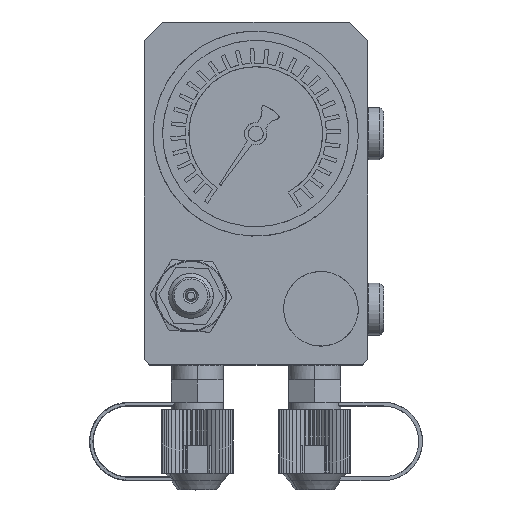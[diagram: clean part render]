
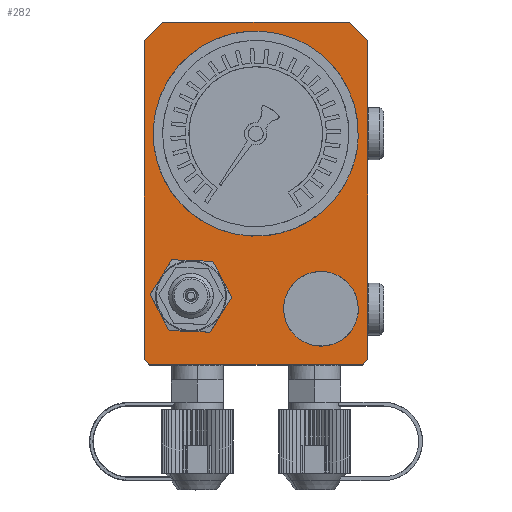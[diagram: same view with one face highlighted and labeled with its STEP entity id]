
A CAD part, top view. The second image highlights one B-rep face of the part: STEP entity #282.
In plain terms, the highlighted planar face has unit normal (0, 0, 1) as drawn and (1, 0, 0) by its records, which use the part's own axes.
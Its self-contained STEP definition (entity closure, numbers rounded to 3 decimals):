
#61=CARTESIAN_POINT('Axis2P3D Location',(4.,87.52,11.75)) ;
#66=CARTESIAN_POINT('Line Origine',(4.,25.8,53.567)) ;
#70=CARTESIAN_POINT('Vertex',(4.,27.508,10.851)) ;
#72=CARTESIAN_POINT('Vertex',(4.,24.092,96.283)) ;
#75=CARTESIAN_POINT('Line Origine',(4.,28.287,10.132)) ;
#79=CARTESIAN_POINT('Vertex',(4.,29.067,9.412)) ;
#82=CARTESIAN_POINT('Line Origine',(4.,57.544,10.551)) ;
#86=CARTESIAN_POINT('Vertex',(4.,86.021,11.69)) ;
#89=CARTESIAN_POINT('Line Origine',(4.,86.741,12.469)) ;
#93=CARTESIAN_POINT('Vertex',(4.,87.46,13.249)) ;
#96=CARTESIAN_POINT('Line Origine',(4.,85.752,55.965)) ;
#100=CARTESIAN_POINT('Vertex',(4.,84.044,98.681)) ;
#103=CARTESIAN_POINT('Line Origine',(4.,81.446,101.079)) ;
#107=CARTESIAN_POINT('Vertex',(4.,78.848,103.477)) ;
#110=CARTESIAN_POINT('Line Origine',(4.,53.868,102.478)) ;
#114=CARTESIAN_POINT('Vertex',(4.,28.888,101.479)) ;
#117=CARTESIAN_POINT('Line Origine',(4.,26.49,98.881)) ;
#132=CARTESIAN_POINT('Line Origine',(4.,47.587,23.59)) ;
#136=CARTESIAN_POINT('Vertex',(4.,44.845,18.84)) ;
#138=CARTESIAN_POINT('Vertex',(4.,50.33,28.34)) ;
#141=CARTESIAN_POINT('Line Origine',(4.,39.36,18.84)) ;
#145=CARTESIAN_POINT('Vertex',(4.,33.875,18.84)) ;
#148=CARTESIAN_POINT('Line Origine',(4.,31.133,23.59)) ;
#152=CARTESIAN_POINT('Vertex',(4.,28.39,28.34)) ;
#155=CARTESIAN_POINT('Line Origine',(4.,31.133,33.09)) ;
#159=CARTESIAN_POINT('Vertex',(4.,33.875,37.84)) ;
#162=CARTESIAN_POINT('Line Origine',(4.,39.36,37.84)) ;
#166=CARTESIAN_POINT('Vertex',(4.,44.845,37.84)) ;
#169=CARTESIAN_POINT('Line Origine',(4.,47.587,33.09)) ;
#182=CARTESIAN_POINT('Line Origine',(4.,74.705,17.744)) ;
#186=CARTESIAN_POINT('Vertex',(4.,69.801,17.548)) ;
#188=CARTESIAN_POINT('Vertex',(4.,79.608,17.94)) ;
#191=CARTESIAN_POINT('Line Origine',(4.,67.18,21.696)) ;
#195=CARTESIAN_POINT('Vertex',(4.,64.558,25.845)) ;
#198=CARTESIAN_POINT('Line Origine',(4.,66.84,30.19)) ;
#202=CARTESIAN_POINT('Vertex',(4.,69.122,34.534)) ;
#205=CARTESIAN_POINT('Line Origine',(4.,74.025,34.73)) ;
#209=CARTESIAN_POINT('Vertex',(4.,78.929,34.927)) ;
#212=CARTESIAN_POINT('Line Origine',(4.,81.55,30.778)) ;
#216=CARTESIAN_POINT('Vertex',(4.,84.172,26.63)) ;
#219=CARTESIAN_POINT('Line Origine',(4.,81.89,22.285)) ;
#232=CARTESIAN_POINT('Line Origine',(4.,61.062,69.)) ;
#236=CARTESIAN_POINT('Vertex',(4.,59.041,65.5)) ;
#238=CARTESIAN_POINT('Vertex',(4.,63.083,72.5)) ;
#241=CARTESIAN_POINT('Line Origine',(4.,55.,65.5)) ;
#245=CARTESIAN_POINT('Vertex',(4.,50.959,65.5)) ;
#248=CARTESIAN_POINT('Line Origine',(4.,48.938,69.)) ;
#252=CARTESIAN_POINT('Vertex',(4.,46.917,72.5)) ;
#255=CARTESIAN_POINT('Line Origine',(4.,48.938,76.)) ;
#259=CARTESIAN_POINT('Vertex',(4.,50.959,79.5)) ;
#262=CARTESIAN_POINT('Line Origine',(4.,55.,79.5)) ;
#266=CARTESIAN_POINT('Vertex',(4.,59.041,79.5)) ;
#269=CARTESIAN_POINT('Line Origine',(4.,61.062,76.)) ;
#62=DIRECTION('Axis2P3D Direction',(1.,0.,0.)) ;
#63=DIRECTION('Axis2P3D XDirection',(0.,0.999,0.04)) ;
#67=DIRECTION('Vector Direction',(0.,-0.04,0.999)) ;
#76=DIRECTION('Vector Direction',(0.,-0.735,0.678)) ;
#83=DIRECTION('Vector Direction',(0.,-0.999,-0.04)) ;
#90=DIRECTION('Vector Direction',(0.,-0.678,-0.735)) ;
#97=DIRECTION('Vector Direction',(0.,0.04,-0.999)) ;
#104=DIRECTION('Vector Direction',(0.,0.735,-0.678)) ;
#111=DIRECTION('Vector Direction',(0.,0.999,0.04)) ;
#118=DIRECTION('Vector Direction',(0.,0.678,0.735)) ;
#133=DIRECTION('Vector Direction',(0.,0.5,0.866)) ;
#142=DIRECTION('Vector Direction',(0.,1.,0.)) ;
#149=DIRECTION('Vector Direction',(0.,0.5,-0.866)) ;
#156=DIRECTION('Vector Direction',(0.,-0.5,-0.866)) ;
#163=DIRECTION('Vector Direction',(0.,-1.,0.)) ;
#170=DIRECTION('Vector Direction',(0.,-0.5,0.866)) ;
#183=DIRECTION('Vector Direction',(0.,-0.999,-0.04)) ;
#192=DIRECTION('Vector Direction',(0.,-0.534,0.845)) ;
#199=DIRECTION('Vector Direction',(0.,0.465,0.885)) ;
#206=DIRECTION('Vector Direction',(0.,0.999,0.04)) ;
#213=DIRECTION('Vector Direction',(0.,0.534,-0.845)) ;
#220=DIRECTION('Vector Direction',(0.,-0.465,-0.885)) ;
#233=DIRECTION('Vector Direction',(0.,0.5,0.866)) ;
#242=DIRECTION('Vector Direction',(0.,1.,0.)) ;
#249=DIRECTION('Vector Direction',(0.,0.5,-0.866)) ;
#256=DIRECTION('Vector Direction',(0.,-0.5,-0.866)) ;
#263=DIRECTION('Vector Direction',(0.,-1.,0.)) ;
#270=DIRECTION('Vector Direction',(0.,-0.5,0.866)) ;
#64=AXIS2_PLACEMENT_3D('Plane Axis2P3D',#61,#62,#63) ;
#123=ORIENTED_EDGE('',*,*,#74,.F.) ;
#124=ORIENTED_EDGE('',*,*,#81,.F.) ;
#125=ORIENTED_EDGE('',*,*,#88,.F.) ;
#126=ORIENTED_EDGE('',*,*,#95,.F.) ;
#127=ORIENTED_EDGE('',*,*,#102,.F.) ;
#128=ORIENTED_EDGE('',*,*,#109,.F.) ;
#129=ORIENTED_EDGE('',*,*,#116,.F.) ;
#130=ORIENTED_EDGE('',*,*,#121,.F.) ;
#175=ORIENTED_EDGE('',*,*,#140,.F.) ;
#176=ORIENTED_EDGE('',*,*,#147,.F.) ;
#177=ORIENTED_EDGE('',*,*,#154,.F.) ;
#178=ORIENTED_EDGE('',*,*,#161,.F.) ;
#179=ORIENTED_EDGE('',*,*,#168,.F.) ;
#180=ORIENTED_EDGE('',*,*,#173,.F.) ;
#225=ORIENTED_EDGE('',*,*,#190,.F.) ;
#226=ORIENTED_EDGE('',*,*,#197,.F.) ;
#227=ORIENTED_EDGE('',*,*,#204,.F.) ;
#228=ORIENTED_EDGE('',*,*,#211,.F.) ;
#229=ORIENTED_EDGE('',*,*,#218,.F.) ;
#230=ORIENTED_EDGE('',*,*,#223,.F.) ;
#275=ORIENTED_EDGE('',*,*,#240,.F.) ;
#276=ORIENTED_EDGE('',*,*,#247,.F.) ;
#277=ORIENTED_EDGE('',*,*,#254,.F.) ;
#278=ORIENTED_EDGE('',*,*,#261,.F.) ;
#279=ORIENTED_EDGE('',*,*,#268,.F.) ;
#280=ORIENTED_EDGE('',*,*,#273,.F.) ;
#181=FACE_BOUND('',#174,.T.) ;
#231=FACE_BOUND('',#224,.T.) ;
#281=FACE_BOUND('',#274,.T.) ;
#68=VECTOR('Line Direction',#67,1.) ;
#77=VECTOR('Line Direction',#76,1.) ;
#84=VECTOR('Line Direction',#83,1.) ;
#91=VECTOR('Line Direction',#90,1.) ;
#98=VECTOR('Line Direction',#97,1.) ;
#105=VECTOR('Line Direction',#104,1.) ;
#112=VECTOR('Line Direction',#111,1.) ;
#119=VECTOR('Line Direction',#118,1.) ;
#134=VECTOR('Line Direction',#133,1.) ;
#143=VECTOR('Line Direction',#142,1.) ;
#150=VECTOR('Line Direction',#149,1.) ;
#157=VECTOR('Line Direction',#156,1.) ;
#164=VECTOR('Line Direction',#163,1.) ;
#171=VECTOR('Line Direction',#170,1.) ;
#184=VECTOR('Line Direction',#183,1.) ;
#193=VECTOR('Line Direction',#192,1.) ;
#200=VECTOR('Line Direction',#199,1.) ;
#207=VECTOR('Line Direction',#206,1.) ;
#214=VECTOR('Line Direction',#213,1.) ;
#221=VECTOR('Line Direction',#220,1.) ;
#234=VECTOR('Line Direction',#233,1.) ;
#243=VECTOR('Line Direction',#242,1.) ;
#250=VECTOR('Line Direction',#249,1.) ;
#257=VECTOR('Line Direction',#256,1.) ;
#264=VECTOR('Line Direction',#263,1.) ;
#271=VECTOR('Line Direction',#270,1.) ;
#282=ADVANCED_FACE('',(#131,#181,#231,#281),#65,.T.) ;
#74=EDGE_CURVE('',#71,#73,#69,.T.) ;
#81=EDGE_CURVE('',#80,#71,#78,.T.) ;
#88=EDGE_CURVE('',#87,#80,#85,.T.) ;
#95=EDGE_CURVE('',#94,#87,#92,.T.) ;
#102=EDGE_CURVE('',#101,#94,#99,.T.) ;
#109=EDGE_CURVE('',#108,#101,#106,.T.) ;
#116=EDGE_CURVE('',#115,#108,#113,.T.) ;
#121=EDGE_CURVE('',#73,#115,#120,.T.) ;
#140=EDGE_CURVE('',#137,#139,#135,.T.) ;
#147=EDGE_CURVE('',#146,#137,#144,.T.) ;
#154=EDGE_CURVE('',#153,#146,#151,.T.) ;
#161=EDGE_CURVE('',#160,#153,#158,.T.) ;
#168=EDGE_CURVE('',#167,#160,#165,.T.) ;
#173=EDGE_CURVE('',#139,#167,#172,.T.) ;
#190=EDGE_CURVE('',#187,#189,#185,.F.) ;
#197=EDGE_CURVE('',#196,#187,#194,.F.) ;
#204=EDGE_CURVE('',#203,#196,#201,.F.) ;
#211=EDGE_CURVE('',#210,#203,#208,.F.) ;
#218=EDGE_CURVE('',#217,#210,#215,.F.) ;
#223=EDGE_CURVE('',#189,#217,#222,.F.) ;
#240=EDGE_CURVE('',#237,#239,#235,.T.) ;
#247=EDGE_CURVE('',#246,#237,#244,.T.) ;
#254=EDGE_CURVE('',#253,#246,#251,.T.) ;
#261=EDGE_CURVE('',#260,#253,#258,.T.) ;
#268=EDGE_CURVE('',#267,#260,#265,.T.) ;
#273=EDGE_CURVE('',#239,#267,#272,.T.) ;
#122=EDGE_LOOP('',(#123,#124,#125,#126,#127,#128,#129,#130)) ;
#174=EDGE_LOOP('',(#175,#176,#177,#178,#179,#180)) ;
#224=EDGE_LOOP('',(#225,#226,#227,#228,#229,#230)) ;
#274=EDGE_LOOP('',(#275,#276,#277,#278,#279,#280)) ;
#131=FACE_OUTER_BOUND('',#122,.T.) ;
#69=LINE('Line',#66,#68) ;
#78=LINE('Line',#75,#77) ;
#85=LINE('Line',#82,#84) ;
#92=LINE('Line',#89,#91) ;
#99=LINE('Line',#96,#98) ;
#106=LINE('Line',#103,#105) ;
#113=LINE('Line',#110,#112) ;
#120=LINE('Line',#117,#119) ;
#135=LINE('Line',#132,#134) ;
#144=LINE('Line',#141,#143) ;
#151=LINE('Line',#148,#150) ;
#158=LINE('Line',#155,#157) ;
#165=LINE('Line',#162,#164) ;
#172=LINE('Line',#169,#171) ;
#185=LINE('Line',#182,#184) ;
#194=LINE('Line',#191,#193) ;
#201=LINE('Line',#198,#200) ;
#208=LINE('Line',#205,#207) ;
#215=LINE('Line',#212,#214) ;
#222=LINE('Line',#219,#221) ;
#235=LINE('Line',#232,#234) ;
#244=LINE('Line',#241,#243) ;
#251=LINE('Line',#248,#250) ;
#258=LINE('Line',#255,#257) ;
#265=LINE('Line',#262,#264) ;
#272=LINE('Line',#269,#271) ;
#65=PLANE('Plane',#64) ;
#71=VERTEX_POINT('',#70) ;
#73=VERTEX_POINT('',#72) ;
#80=VERTEX_POINT('',#79) ;
#87=VERTEX_POINT('',#86) ;
#94=VERTEX_POINT('',#93) ;
#101=VERTEX_POINT('',#100) ;
#108=VERTEX_POINT('',#107) ;
#115=VERTEX_POINT('',#114) ;
#137=VERTEX_POINT('',#136) ;
#139=VERTEX_POINT('',#138) ;
#146=VERTEX_POINT('',#145) ;
#153=VERTEX_POINT('',#152) ;
#160=VERTEX_POINT('',#159) ;
#167=VERTEX_POINT('',#166) ;
#187=VERTEX_POINT('',#186) ;
#189=VERTEX_POINT('',#188) ;
#196=VERTEX_POINT('',#195) ;
#203=VERTEX_POINT('',#202) ;
#210=VERTEX_POINT('',#209) ;
#217=VERTEX_POINT('',#216) ;
#237=VERTEX_POINT('',#236) ;
#239=VERTEX_POINT('',#238) ;
#246=VERTEX_POINT('',#245) ;
#253=VERTEX_POINT('',#252) ;
#260=VERTEX_POINT('',#259) ;
#267=VERTEX_POINT('',#266) ;
